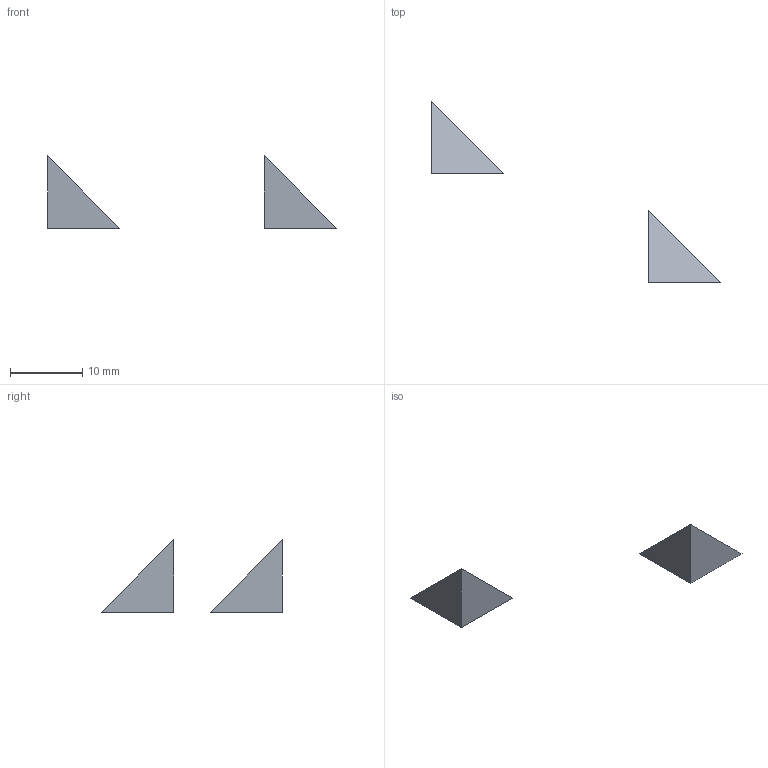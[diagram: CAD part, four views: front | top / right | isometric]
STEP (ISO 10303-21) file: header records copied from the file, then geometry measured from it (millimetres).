
FILE_DESCRIPTION(('BRL-CAD AP214 shared mapped-item fixture'),'2;1');
FILE_NAME('ap214_mapped_items.stp','2026-07-17T00:00:00',('BRL-CAD'),('BRL-CAD'),'','','');
FILE_SCHEMA(('AUTOMOTIVE_DESIGN { 1 0 10303 214 3 1 1 1 }'));
Length unit declared in the file: millimetre
Products named in the file (1): mapped_tetra
Bounding box: 40 x 25 x 10 mm (x, y, z)
Volume: 333.3 mm3; surface area: 473.2 mm2
Topology: 2 solids, 2 shells, 8 faces, 12 edges, 8 vertices
Faces by surface type: plane 8
Entity records: 102 total; most frequent: DIRECTION 12, ORIENTED_EDGE 12, CARTESIAN_POINT 6, VECTOR 6, LINE 6, EDGE_CURVE 6, AXIS2_PLACEMENT_3D 5, VERTEX_POINT 4
